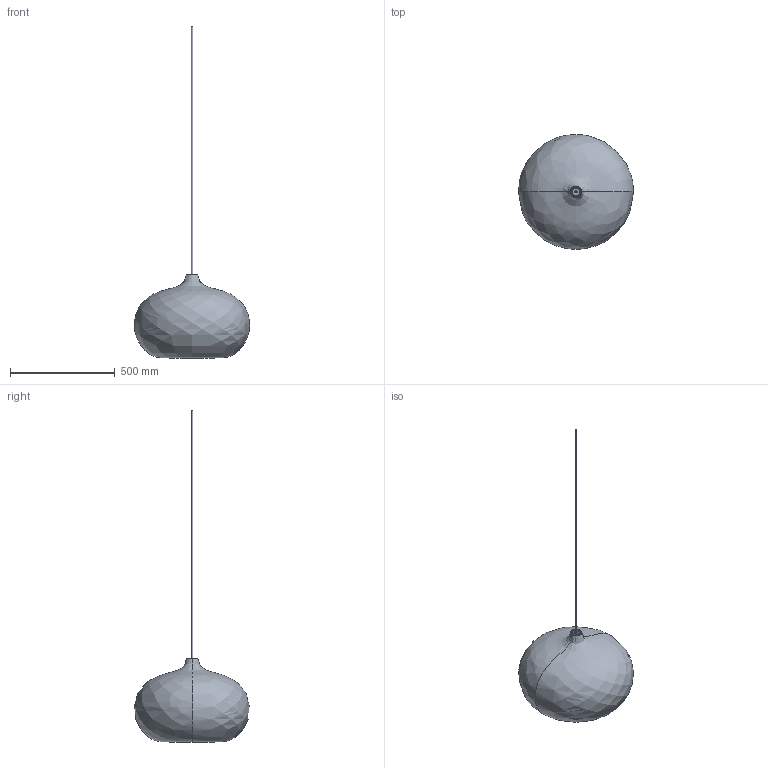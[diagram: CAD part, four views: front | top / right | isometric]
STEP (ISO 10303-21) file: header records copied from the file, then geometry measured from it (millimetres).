
FILE_DESCRIPTION(/* description */ (''),/* implementation_level */ '2;1');
FILE_NAME(/* name */ 'BLA5JO~N',/* time_stamp */ '2019-09-06T13:54:29+02:00',/* author */ (''),/* organization */ (''),/* preprocessor_version */ 'ST-DEVELOPER v16.5',/* originating_system */ '',/* authorisation */ '');
FILE_SCHEMA (('AUTOMOTIVE_DESIGN'));
Length unit declared in the file: millimetre
Products named in the file (3): Document; bulb fitting cover E27; tube
Assembly tree (2 placements, depth 2):
  Document
    bulb fitting cover E27
    tube
Bounding box: 548.09 x 547.93 x 1581.03 mm (x, y, z)
Volume: 3826018 mm3; surface area: 1512313.1 mm2
Topology: 4 solids, 4 shells, 31 faces, 60 edges, 36 vertices
Faces by surface type: bspline 24, plane 7
Entity records: 2614 total; most frequent: CARTESIAN_POINT 2169, ORIENTED_EDGE 120, EDGE_CURVE 60, EDGE_LOOP 36, VERTEX_POINT 36, ADVANCED_FACE 31, FACE_OUTER_BOUND 31, DIRECTION 23
